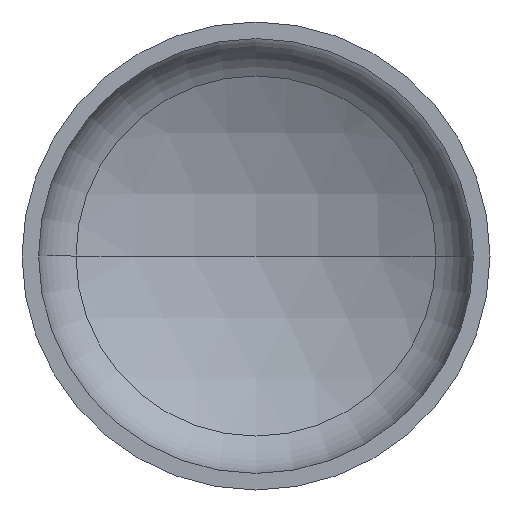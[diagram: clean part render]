
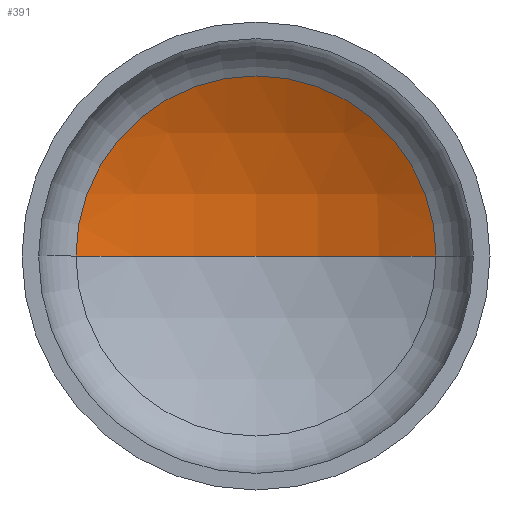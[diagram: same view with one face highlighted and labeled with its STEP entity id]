
A CAD part, front view. The second image highlights one B-rep face of the part: STEP entity #391.
In plain terms, the highlighted spherical face has radius 2080 mm.
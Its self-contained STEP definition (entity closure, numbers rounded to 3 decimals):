
#1 = AXIS2_PLACEMENT_3D ( 'NONE', #158, #317, #175 ) ;
#18 = EDGE_LOOP ( 'NONE', ( #83, #78, #27 ) ) ;
#20 = VERTEX_POINT ( 'NONE', #275 ) ;
#26 = AXIS2_PLACEMENT_3D ( 'NONE', #306, #308, #69 ) ;
#27 = ORIENTED_EDGE ( 'NONE', *, *, #351, .T. ) ;
#28 = AXIS2_PLACEMENT_3D ( 'NONE', #176, #165, #332 ) ;
#30 = AXIS2_PLACEMENT_3D ( 'NONE', #172, #166, #169 ) ;
#69 = DIRECTION ( 'NONE',  ( 1., 0., 0. ) ) ;
#78 = ORIENTED_EDGE ( 'NONE', *, *, #356, .T. ) ;
#83 = ORIENTED_EDGE ( 'NONE', *, *, #362, .F. ) ;
#91 = VERTEX_POINT ( 'NONE', #322 ) ;
#139 = VERTEX_POINT ( 'NONE', #319 ) ;
#158 = CARTESIAN_POINT ( 'NONE',  ( 0., -1372.934, 0. ) ) ;
#165 = DIRECTION ( 'NONE',  ( 0., 0., -1. ) ) ;
#166 = DIRECTION ( 'NONE',  ( 0., -1., 0. ) ) ;
#169 = DIRECTION ( 'NONE',  ( 1., 0., 0. ) ) ;
#172 = CARTESIAN_POINT ( 'NONE',  ( 0., 450.699, 0. ) ) ;
#175 = DIRECTION ( 'NONE',  ( -1., 0., 0. ) ) ;
#176 = CARTESIAN_POINT ( 'NONE',  ( 0., -1372.934, 0. ) ) ;
#241 = SPHERICAL_SURFACE ( 'NONE', #1, 2080. ) ;
#255 = CIRCLE ( 'NONE', #26, 2080. ) ;
#275 = CARTESIAN_POINT ( 'NONE',  ( 1000.381, 450.699, 0. ) ) ;
#306 = CARTESIAN_POINT ( 'NONE',  ( 0., -1372.934, 0. ) ) ;
#308 = DIRECTION ( 'NONE',  ( 0., 0., 1. ) ) ;
#317 = DIRECTION ( 'NONE',  ( 0., 0., -1. ) ) ;
#319 = CARTESIAN_POINT ( 'NONE',  ( -1000.381, 450.699, 0. ) ) ;
#321 = CIRCLE ( 'NONE', #28, 2080. ) ;
#322 = CARTESIAN_POINT ( 'NONE',  ( 0., 707.066, 0. ) ) ;
#332 = DIRECTION ( 'NONE',  ( -1., 0., 0. ) ) ;
#351 = EDGE_CURVE ( 'NONE', #20, #139, #381, .T. ) ;
#354 = FACE_OUTER_BOUND ( 'NONE', #18, .T. ) ;
#356 = EDGE_CURVE ( 'NONE', #91, #20, #321, .T. ) ;
#362 = EDGE_CURVE ( 'NONE', #91, #139, #255, .T. ) ;
#381 = CIRCLE ( 'NONE', #30, 1000.381 ) ;
#391 = ADVANCED_FACE ( 'NONE', ( #354 ), #241, .F. ) ;
